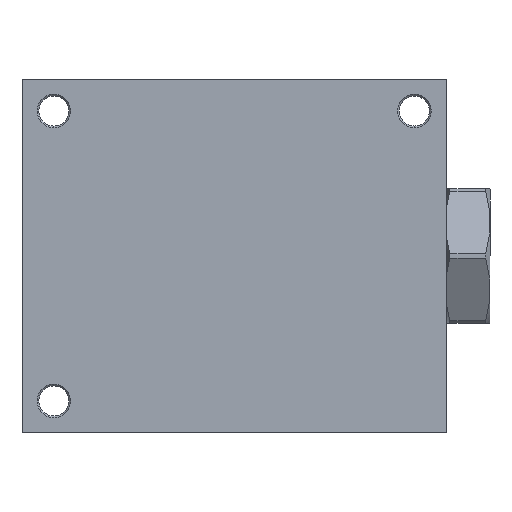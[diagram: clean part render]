
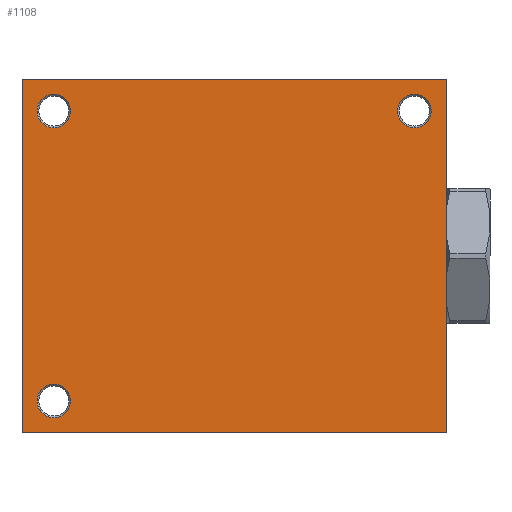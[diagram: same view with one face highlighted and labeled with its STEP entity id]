
A CAD part, left-side view. The second image highlights one B-rep face of the part: STEP entity #1108.
In plain terms, the highlighted planar face has unit normal (-1, 0, 0).
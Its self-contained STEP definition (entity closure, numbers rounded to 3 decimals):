
#38=FACE_BOUND('',#176,.T.);
#39=FACE_BOUND('',#177,.T.);
#40=FACE_BOUND('',#178,.T.);
#53=PLANE('',#1220);
#106=FACE_OUTER_BOUND('',#175,.T.);
#175=EDGE_LOOP('',(#740,#741,#742,#743));
#176=EDGE_LOOP('',(#744));
#177=EDGE_LOOP('',(#745));
#178=EDGE_LOOP('',(#746));
#254=LINE('',#1779,#311);
#258=LINE('',#1787,#315);
#259=LINE('',#1789,#316);
#260=LINE('',#1790,#317);
#311=VECTOR('',#1395,10.);
#315=VECTOR('',#1401,10.);
#316=VECTOR('',#1402,10.);
#317=VECTOR('',#1403,10.);
#364=CIRCLE('',#1203,4.75);
#374=CIRCLE('',#1221,4.75);
#375=CIRCLE('',#1222,4.75);
#440=VERTEX_POINT('',#1699);
#453=VERTEX_POINT('',#1777);
#454=VERTEX_POINT('',#1778);
#457=VERTEX_POINT('',#1786);
#458=VERTEX_POINT('',#1788);
#459=VERTEX_POINT('',#1791);
#460=VERTEX_POINT('',#1793);
#542=EDGE_CURVE('',#440,#440,#364,.T.);
#561=EDGE_CURVE('',#453,#454,#254,.T.);
#565=EDGE_CURVE('',#457,#454,#258,.T.);
#566=EDGE_CURVE('',#457,#458,#259,.T.);
#567=EDGE_CURVE('',#453,#458,#260,.T.);
#568=EDGE_CURVE('',#459,#459,#374,.T.);
#569=EDGE_CURVE('',#460,#460,#375,.T.);
#740=ORIENTED_EDGE('',*,*,#561,.T.);
#741=ORIENTED_EDGE('',*,*,#565,.F.);
#742=ORIENTED_EDGE('',*,*,#566,.T.);
#743=ORIENTED_EDGE('',*,*,#567,.F.);
#744=ORIENTED_EDGE('',*,*,#568,.F.);
#745=ORIENTED_EDGE('',*,*,#542,.F.);
#746=ORIENTED_EDGE('',*,*,#569,.F.);
#1108=ADVANCED_FACE('',(#106,#38,#39,#40),#53,.T.);
#1203=AXIS2_PLACEMENT_3D('',#1700,#1355,#1356);
#1220=AXIS2_PLACEMENT_3D('',#1785,#1399,#1400);
#1221=AXIS2_PLACEMENT_3D('',#1792,#1404,#1405);
#1222=AXIS2_PLACEMENT_3D('',#1794,#1406,#1407);
#1355=DIRECTION('center_axis',(-1.,0.,0.));
#1356=DIRECTION('ref_axis',(0.,1.,0.));
#1395=DIRECTION('',(0.,0.,-1.));
#1399=DIRECTION('center_axis',(-1.,0.,0.));
#1400=DIRECTION('ref_axis',(0.,0.,1.));
#1401=DIRECTION('',(0.,1.,0.));
#1402=DIRECTION('',(0.,0.,1.));
#1403=DIRECTION('',(0.,-1.,0.));
#1404=DIRECTION('center_axis',(-1.,0.,0.));
#1405=DIRECTION('ref_axis',(0.,1.,0.));
#1406=DIRECTION('center_axis',(-1.,0.,0.));
#1407=DIRECTION('ref_axis',(0.,-1.,0.));
#1699=CARTESIAN_POINT('',(-25.,46.25,41.));
#1700=CARTESIAN_POINT('Origin',(-25.,51.,41.));
#1777=CARTESIAN_POINT('',(-25.,60.,50.));
#1778=CARTESIAN_POINT('',(-25.,60.,-50.));
#1779=CARTESIAN_POINT('',(-25.,60.,-50.));
#1785=CARTESIAN_POINT('Origin',(-25.,0.,50.));
#1786=CARTESIAN_POINT('',(-25.,-60.,-50.));
#1787=CARTESIAN_POINT('',(-25.,0.,-50.));
#1788=CARTESIAN_POINT('',(-25.,-60.,50.));
#1789=CARTESIAN_POINT('',(-25.,-60.,-50.));
#1790=CARTESIAN_POINT('',(-25.,0.,50.));
#1791=CARTESIAN_POINT('',(-25.,46.25,-41.));
#1792=CARTESIAN_POINT('Origin',(-25.,51.,-41.));
#1793=CARTESIAN_POINT('',(-25.,-46.25,41.));
#1794=CARTESIAN_POINT('Origin',(-25.,-51.,41.));
